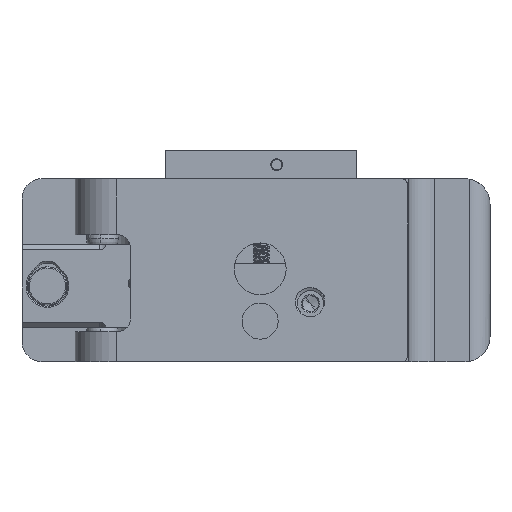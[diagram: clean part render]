
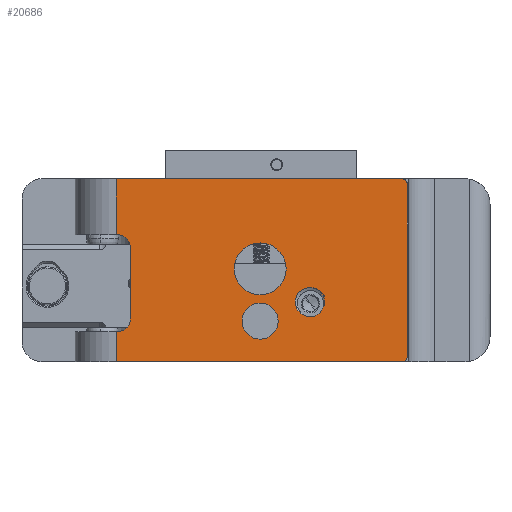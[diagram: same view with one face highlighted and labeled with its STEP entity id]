
A CAD part, front view. The second image highlights one B-rep face of the part: STEP entity #20686.
In plain terms, the highlighted planar face has unit normal (0, -1, 0).
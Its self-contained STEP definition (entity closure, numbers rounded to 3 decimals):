
#16578=DIRECTION('',(-1.,0.,0.));
#16579=VECTOR('',#16578,0.191);
#16580=CARTESIAN_POINT('',(-15.431,-4.731,4.445));
#16581=LINE('',#16580,#16579);
#16643=CARTESIAN_POINT('',(2.35,-4.731,-6.35));
#16644=DIRECTION('',(0.,-1.,0.));
#16645=DIRECTION('',(-1.,0.,0.));
#16646=AXIS2_PLACEMENT_3D('',#16643,#16644,#16645);
#16648=CARTESIAN_POINT('',(2.35,-4.731,-6.35));
#16649=DIRECTION('',(0.,-1.,0.));
#16650=DIRECTION('',(1.,0.,0.));
#16651=AXIS2_PLACEMENT_3D('',#16648,#16649,#16650);
#16653=CARTESIAN_POINT('',(2.35,-4.731,0.165));
#16654=DIRECTION('',(0.,-1.,0.));
#16655=DIRECTION('',(-1.,0.,0.));
#16656=AXIS2_PLACEMENT_3D('',#16653,#16654,#16655);
#16658=CARTESIAN_POINT('',(2.35,-4.731,0.165));
#16659=DIRECTION('',(0.,-1.,0.));
#16660=DIRECTION('',(1.,0.,0.));
#16661=AXIS2_PLACEMENT_3D('',#16658,#16659,#16660);
#16663=CARTESIAN_POINT('',(-15.431,-4.731,-6.083));
#16664=DIRECTION('',(0.,1.,0.));
#16665=DIRECTION('',(1.,0.,0.));
#16666=AXIS2_PLACEMENT_3D('',#16663,#16664,#16665);
#16668=CARTESIAN_POINT('',(-15.431,-4.731,2.858));
#16669=DIRECTION('',(0.,1.,0.));
#16670=DIRECTION('',(0.,0.,1.));
#16671=AXIS2_PLACEMENT_3D('',#16668,#16669,#16670);
#16673=DIRECTION('',(-1.,0.,0.));
#16674=VECTOR('',#16673,35.687);
#16675=CARTESIAN_POINT('',(20.066,-4.731,11.43));
#16676=LINE('',#16675,#16674);
#16677=CARTESIAN_POINT('',(20.066,-4.731,10.795));
#16678=DIRECTION('',(0.,-1.,0.));
#16679=DIRECTION('',(1.,0.,0.));
#16680=AXIS2_PLACEMENT_3D('',#16677,#16678,#16679);
#16682=DIRECTION('',(0.,0.,1.));
#16683=VECTOR('',#16682,21.59);
#16684=CARTESIAN_POINT('',(20.701,-4.731,-10.795));
#16685=LINE('',#16684,#16683);
#16686=CARTESIAN_POINT('',(20.066,-4.731,-10.795));
#16687=DIRECTION('',(0.,-1.,0.));
#16688=DIRECTION('',(0.,0.,-1.));
#16689=AXIS2_PLACEMENT_3D('',#16686,#16687,#16688);
#16691=CARTESIAN_POINT('',(9.182,-4.731,-2.249));
#16692=CARTESIAN_POINT('',(9.304,-4.731,-2.297));
#16693=CARTESIAN_POINT('',(9.533,-4.731,-2.413));
#16694=CARTESIAN_POINT('',(9.836,-4.731,-2.652));
#16695=CARTESIAN_POINT('',(10.079,-4.731,-2.936));
#16696=CARTESIAN_POINT('',(10.262,-4.731,-3.266));
#16697=CARTESIAN_POINT('',(10.373,-4.731,-3.617));
#16698=CARTESIAN_POINT('',(10.412,-4.731,-3.994));
#16699=CARTESIAN_POINT('',(10.369,-4.731,-4.366));
#16700=CARTESIAN_POINT('',(10.252,-4.731,-4.712));
#16701=CARTESIAN_POINT('',(10.13,-4.731,-4.915));
#16702=CARTESIAN_POINT('',(10.058,-4.731,-5.01));
#16704=CARTESIAN_POINT('',(7.079,-4.731,-2.918));
#16705=CARTESIAN_POINT('',(7.179,-4.731,-2.794));
#16706=CARTESIAN_POINT('',(7.402,-4.731,-2.577));
#16707=CARTESIAN_POINT('',(7.805,-4.731,-2.334));
#16708=CARTESIAN_POINT('',(8.252,-4.731,-2.191));
#16709=CARTESIAN_POINT('',(8.727,-4.731,-2.157));
#16710=CARTESIAN_POINT('',(9.031,-4.731,-2.206));
#16711=CARTESIAN_POINT('',(9.182,-4.731,-2.249));
#16713=CARTESIAN_POINT('',(7.853,-4.731,-5.64));
#16714=CARTESIAN_POINT('',(7.736,-4.731,-5.594));
#16715=CARTESIAN_POINT('',(7.514,-4.731,-5.477));
#16716=CARTESIAN_POINT('',(7.215,-4.731,-5.218));
#16717=CARTESIAN_POINT('',(6.984,-4.731,-4.902));
#16718=CARTESIAN_POINT('',(6.821,-4.731,-4.524));
#16719=CARTESIAN_POINT('',(6.747,-4.731,-4.125));
#16720=CARTESIAN_POINT('',(6.761,-4.731,-3.704));
#16721=CARTESIAN_POINT('',(6.869,-4.731,-3.294));
#16722=CARTESIAN_POINT('',(6.998,-4.731,-3.04));
#16723=CARTESIAN_POINT('',(7.079,-4.731,-2.918));
#16725=CARTESIAN_POINT('',(7.959,-4.731,-5.678));
#16726=CARTESIAN_POINT('',(7.941,-4.731,-5.672));
#16727=CARTESIAN_POINT('',(7.906,-4.731,-5.66));
#16728=CARTESIAN_POINT('',(7.871,-4.731,-5.647));
#16729=CARTESIAN_POINT('',(7.853,-4.731,-5.64));
#16731=CARTESIAN_POINT('',(8.636,-4.731,-4.173));
#16732=DIRECTION('',(0.,-1.,0.));
#16733=DIRECTION('',(-0.41,0.,-0.912));
#16734=AXIS2_PLACEMENT_3D('',#16731,#16732,#16733);
#16902=DIRECTION('',(0.,0.,1.));
#16903=VECTOR('',#16902,8.941);
#16904=CARTESIAN_POINT('',(-13.843,-4.731,-6.083));
#16905=LINE('',#16904,#16903);
#16970=DIRECTION('',(1.,0.,0.));
#16971=VECTOR('',#16970,0.191);
#16972=CARTESIAN_POINT('',(-15.621,-4.731,-7.671));
#16973=LINE('',#16972,#16971);
#16993=DIRECTION('',(-1.,0.,0.));
#16994=VECTOR('',#16993,35.687);
#16995=CARTESIAN_POINT('',(20.066,-4.731,-11.43));
#16996=LINE('',#16995,#16994);
#17102=DIRECTION('',(0.,0.,1.));
#17103=VECTOR('',#17102,6.985);
#17104=CARTESIAN_POINT('',(-15.621,-4.731,4.445));
#17105=LINE('',#17104,#17103);
#18376=DIRECTION('',(0.,0.,1.));
#18377=VECTOR('',#18376,3.759);
#18378=CARTESIAN_POINT('',(-15.621,-4.731,-11.43));
#18379=LINE('',#18378,#18377);
#20327=CARTESIAN_POINT('',(20.701,-4.731,10.795));
#20328=VERTEX_POINT('',#20327);
#20337=CARTESIAN_POINT('',(-13.843,-4.731,-6.083));
#20338=CARTESIAN_POINT('',(-13.843,-4.731,2.858));
#20339=VERTEX_POINT('',#20337);
#20340=VERTEX_POINT('',#20338);
#20344=CARTESIAN_POINT('',(-15.621,-4.731,-7.671));
#20346=VERTEX_POINT('',#20344);
#20347=CARTESIAN_POINT('',(-15.431,-4.731,4.445));
#20348=VERTEX_POINT('',#20347);
#20356=CARTESIAN_POINT('',(20.701,-4.731,-10.795));
#20358=VERTEX_POINT('',#20356);
#20369=CARTESIAN_POINT('',(20.066,-4.731,11.43));
#20370=VERTEX_POINT('',#20369);
#20371=CARTESIAN_POINT('',(-15.431,-4.731,-7.671));
#20372=VERTEX_POINT('',#20371);
#20375=CARTESIAN_POINT('',(-15.621,-4.731,11.43));
#20376=VERTEX_POINT('',#20375);
#20377=CARTESIAN_POINT('',(20.066,-4.731,-11.43));
#20378=CARTESIAN_POINT('',(-15.621,-4.731,-11.43));
#20379=VERTEX_POINT('',#20377);
#20380=VERTEX_POINT('',#20378);
#20383=CARTESIAN_POINT('',(-15.621,-4.731,4.445));
#20384=VERTEX_POINT('',#20383);
#20475=CARTESIAN_POINT('',(-0.901,-4.731,0.165));
#20476=CARTESIAN_POINT('',(5.6,-4.731,0.165));
#20477=VERTEX_POINT('',#20475);
#20478=VERTEX_POINT('',#20476);
#20479=CARTESIAN_POINT('',(0.1,-4.731,-6.35));
#20480=CARTESIAN_POINT('',(4.6,-4.731,-6.35));
#20481=VERTEX_POINT('',#20479);
#20482=VERTEX_POINT('',#20480);
#20515=VERTEX_POINT('',#16691);
#20516=VERTEX_POINT('',#16702);
#20517=VERTEX_POINT('',#16704);
#20518=VERTEX_POINT('',#16713);
#20519=VERTEX_POINT('',#16725);
#20632=CARTESIAN_POINT('',(20.701,-4.731,11.43));
#20633=DIRECTION('',(0.,1.,0.));
#20634=DIRECTION('',(-1.,0.,0.));
#20635=AXIS2_PLACEMENT_3D('',#20632,#20633,#20634);
#20636=PLANE('',#20635);
#20638=ORIENTED_EDGE('',*,*,#20637,.T.);
#20640=ORIENTED_EDGE('',*,*,#20639,.F.);
#20642=ORIENTED_EDGE('',*,*,#20641,.T.);
#20644=ORIENTED_EDGE('',*,*,#20643,.F.);
#20645=ORIENTED_EDGE('',*,*,#20606,.T.);
#20647=ORIENTED_EDGE('',*,*,#20646,.T.);
#20649=ORIENTED_EDGE('',*,*,#20648,.F.);
#20651=ORIENTED_EDGE('',*,*,#20650,.F.);
#20653=ORIENTED_EDGE('',*,*,#20652,.F.);
#20655=ORIENTED_EDGE('',*,*,#20654,.F.);
#20657=ORIENTED_EDGE('',*,*,#20656,.T.);
#20659=ORIENTED_EDGE('',*,*,#20658,.T.);
#20660=EDGE_LOOP('',(#20638,#20640,#20642,#20644,#20645,#20647,#20649,#20651,
#20653,#20655,#20657,#20659));
#20661=FACE_OUTER_BOUND('',#20660,.F.);
#20663=ORIENTED_EDGE('',*,*,#20662,.T.);
#20665=ORIENTED_EDGE('',*,*,#20664,.T.);
#20666=EDGE_LOOP('',(#20663,#20665));
#20667=FACE_BOUND('',#20666,.F.);
#20669=ORIENTED_EDGE('',*,*,#20668,.T.);
#20671=ORIENTED_EDGE('',*,*,#20670,.T.);
#20672=EDGE_LOOP('',(#20669,#20671));
#20673=FACE_BOUND('',#20672,.F.);
#20675=ORIENTED_EDGE('',*,*,#20674,.F.);
#20677=ORIENTED_EDGE('',*,*,#20676,.F.);
#20679=ORIENTED_EDGE('',*,*,#20678,.F.);
#20681=ORIENTED_EDGE('',*,*,#20680,.F.);
#20683=ORIENTED_EDGE('',*,*,#20682,.T.);
#20684=EDGE_LOOP('',(#20675,#20677,#20679,#20681,#20683));
#20685=FACE_BOUND('',#20684,.F.);
#20686=ADVANCED_FACE('',(#20661,#20667,#20673,#20685),#20636,.F.);
#16647=CIRCLE('',#16646,2.25);
#16652=CIRCLE('',#16651,2.25);
#16657=CIRCLE('',#16656,3.25);
#16662=CIRCLE('',#16661,3.25);
#16667=CIRCLE('',#16666,1.588);
#16672=CIRCLE('',#16671,1.588);
#16681=CIRCLE('',#16680,0.635);
#16690=CIRCLE('',#16689,0.635);
#16703=B_SPLINE_CURVE_WITH_KNOTS('',3,(#16691,#16692,#16693,#16694,#16695,
#16696,#16697,#16698,#16699,#16700,#16701,#16702),.UNSPECIFIED.,.F.,.F.,(4,1,1,
1,1,1,1,1,1,4),(0.,0.111,0.222,0.333,
0.444,0.556,0.667,0.778,
0.889,1.),.UNSPECIFIED.);
#16712=B_SPLINE_CURVE_WITH_KNOTS('',3,(#16704,#16705,#16706,#16707,#16708,
#16709,#16710,#16711),.UNSPECIFIED.,.F.,.F.,(4,1,1,1,1,4),(0.,0.2,0.4,
0.6,0.8,1.),.UNSPECIFIED.);
#16724=B_SPLINE_CURVE_WITH_KNOTS('',3,(#16713,#16714,#16715,#16716,#16717,
#16718,#16719,#16720,#16721,#16722,#16723),.UNSPECIFIED.,.F.,.F.,(4,1,1,1,1,1,1,
1,4),(0.,0.125,0.25,0.375,0.5,0.625,0.75,0.875,1.),
.UNSPECIFIED.);
#16730=B_SPLINE_CURVE_WITH_KNOTS('',3,(#16725,#16726,#16727,#16728,#16729),
.UNSPECIFIED.,.F.,.F.,(4,1,4),(0.,0.5,1.),.UNSPECIFIED.);
#16735=CIRCLE('',#16734,1.65);
#20606=EDGE_CURVE('',#20348,#20384,#16581,.T.);
#20637=EDGE_CURVE('',#20346,#20372,#16973,.T.);
#20639=EDGE_CURVE('',#20339,#20372,#16667,.T.);
#20641=EDGE_CURVE('',#20339,#20340,#16905,.T.);
#20643=EDGE_CURVE('',#20348,#20340,#16672,.T.);
#20646=EDGE_CURVE('',#20384,#20376,#17105,.T.);
#20648=EDGE_CURVE('',#20370,#20376,#16676,.T.);
#20650=EDGE_CURVE('',#20328,#20370,#16681,.T.);
#20652=EDGE_CURVE('',#20358,#20328,#16685,.T.);
#20654=EDGE_CURVE('',#20379,#20358,#16690,.T.);
#20656=EDGE_CURVE('',#20379,#20380,#16996,.T.);
#20658=EDGE_CURVE('',#20380,#20346,#18379,.T.);
#20662=EDGE_CURVE('',#20477,#20478,#16657,.T.);
#20664=EDGE_CURVE('',#20478,#20477,#16662,.T.);
#20668=EDGE_CURVE('',#20481,#20482,#16647,.T.);
#20670=EDGE_CURVE('',#20482,#20481,#16652,.T.);
#20674=EDGE_CURVE('',#20515,#20516,#16703,.T.);
#20676=EDGE_CURVE('',#20517,#20515,#16712,.T.);
#20678=EDGE_CURVE('',#20518,#20517,#16724,.T.);
#20680=EDGE_CURVE('',#20519,#20518,#16730,.T.);
#20682=EDGE_CURVE('',#20519,#20516,#16735,.T.);
